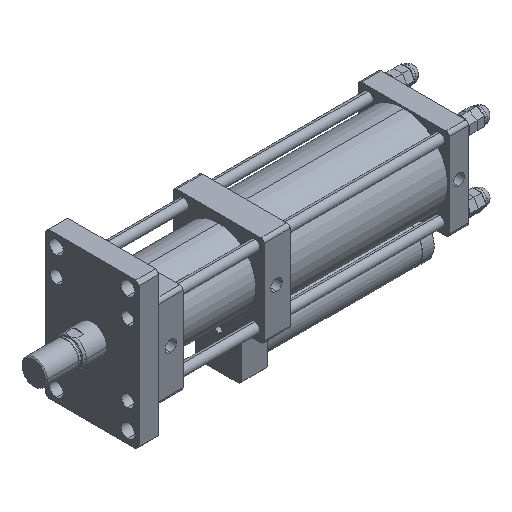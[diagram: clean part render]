
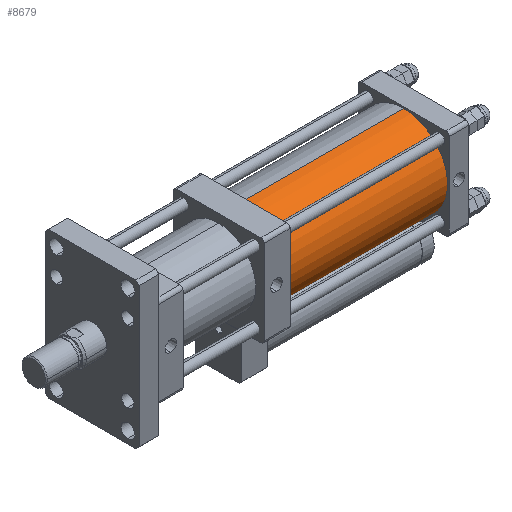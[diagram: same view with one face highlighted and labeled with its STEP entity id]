
A CAD part, isometric view. The second image highlights one B-rep face of the part: STEP entity #8679.
In plain terms, the highlighted cylindrical face has radius 67.5 mm (diameter 135 mm), a partial arc.
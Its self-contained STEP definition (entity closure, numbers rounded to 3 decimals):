
#210 = DIRECTION ( 'NONE',  ( 0., 0., -1. ) ) ;
#213 = ORIENTED_EDGE ( 'NONE', *, *, #4624, .T. ) ;
#1429 = EDGE_CURVE ( 'NONE', #1800, #12036, #5102, .T. ) ;
#1800 = VERTEX_POINT ( 'NONE', #3324 ) ;
#2637 = CARTESIAN_POINT ( 'NONE',  ( 325., 0., -67.5 ) ) ;
#3034 = FACE_OUTER_BOUND ( 'NONE', #10732, .T. ) ;
#3324 = CARTESIAN_POINT ( 'NONE',  ( 570., 0., 67.5 ) ) ;
#3942 = EDGE_CURVE ( 'NONE', #6320, #5356, #8210, .T. ) ;
#4087 = DIRECTION ( 'NONE',  ( -1., 0., 0. ) ) ;
#4128 = CARTESIAN_POINT ( 'NONE',  ( 570., 0., -67.5 ) ) ;
#4198 = DIRECTION ( 'NONE',  ( -1., 0., 0. ) ) ;
#4246 = CARTESIAN_POINT ( 'NONE',  ( 570., 0., -67.5 ) ) ;
#4443 = CIRCLE ( 'NONE', #8966, 67.5 ) ;
#4571 = CIRCLE ( 'NONE', #6959, 67.5 ) ;
#4624 = EDGE_CURVE ( 'NONE', #12036, #5356, #4443, .T. ) ;
#5102 = LINE ( 'NONE', #7891, #10928 ) ;
#5161 = CYLINDRICAL_SURFACE ( 'NONE', #10944, 67.5 ) ;
#5356 = VERTEX_POINT ( 'NONE', #2637 ) ;
#6219 = DIRECTION ( 'NONE',  ( 1., 0., 0. ) ) ;
#6265 = ORIENTED_EDGE ( 'NONE', *, *, #3942, .F. ) ;
#6320 = VERTEX_POINT ( 'NONE', #4128 ) ;
#6353 = VECTOR ( 'NONE', #4198, 1000. ) ;
#6959 = AXIS2_PLACEMENT_3D ( 'NONE', #12017, #6219, #210 ) ;
#7891 = CARTESIAN_POINT ( 'NONE',  ( 570., 0., 67.5 ) ) ;
#7910 = DIRECTION ( 'NONE',  ( -1., 0., 0. ) ) ;
#8210 = LINE ( 'NONE', #4246, #6353 ) ;
#8679 = ADVANCED_FACE ( 'NONE', ( #3034 ), #5161, .T. ) ;
#8966 = AXIS2_PLACEMENT_3D ( 'NONE', #9326, #9340, #9371 ) ;
#9061 = ORIENTED_EDGE ( 'NONE', *, *, #12310, .F. ) ;
#9326 = CARTESIAN_POINT ( 'NONE',  ( 325., 0., 0. ) ) ;
#9340 = DIRECTION ( 'NONE',  ( 1., 0., 0. ) ) ;
#9371 = DIRECTION ( 'NONE',  ( 0., 0., -1. ) ) ;
#9609 = CARTESIAN_POINT ( 'NONE',  ( 325., 0., 67.5 ) ) ;
#10164 = CARTESIAN_POINT ( 'NONE',  ( 570., 0., 0. ) ) ;
#10732 = EDGE_LOOP ( 'NONE', ( #6265, #9061, #12583, #213 ) ) ;
#10928 = VECTOR ( 'NONE', #7910, 1000. ) ;
#10944 = AXIS2_PLACEMENT_3D ( 'NONE', #10164, #4087, #11899 ) ;
#11899 = DIRECTION ( 'NONE',  ( 0., 0., 1. ) ) ;
#12017 = CARTESIAN_POINT ( 'NONE',  ( 570., 0., 0. ) ) ;
#12036 = VERTEX_POINT ( 'NONE', #9609 ) ;
#12310 = EDGE_CURVE ( 'NONE', #1800, #6320, #4571, .T. ) ;
#12583 = ORIENTED_EDGE ( 'NONE', *, *, #1429, .T. ) ;
